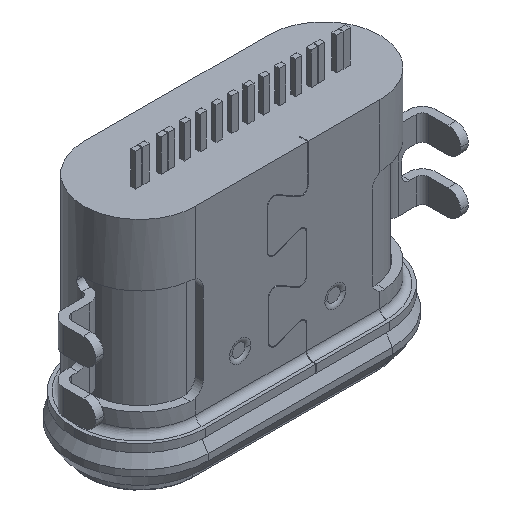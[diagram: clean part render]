
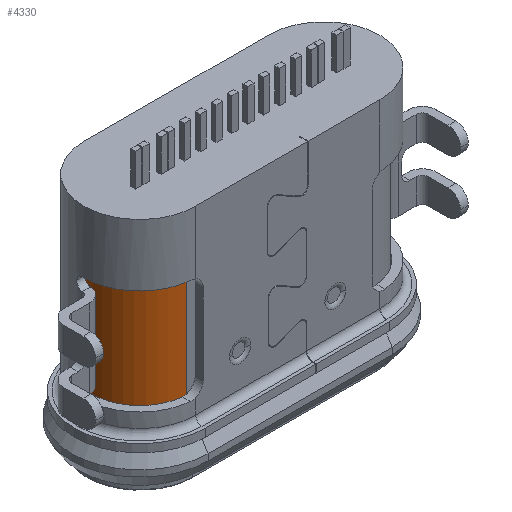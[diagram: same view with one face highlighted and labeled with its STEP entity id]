
A CAD part, isometric view. The second image highlights one B-rep face of the part: STEP entity #4330.
In plain terms, the highlighted cylindrical face has radius 1.48 mm (diameter 2.96 mm), a partial arc.
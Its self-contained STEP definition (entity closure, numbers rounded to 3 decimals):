
#1114 = EDGE_CURVE ( 'NONE', #4455, #7992, #5754, .T. ) ;
#1627 = AXIS2_PLACEMENT_3D ( 'NONE', #1766, #13767, #6457 ) ;
#1766 = CARTESIAN_POINT ( 'NONE',  ( -3.067, 0.666, 1.38 ) ) ;
#1993 = DIRECTION ( 'NONE',  ( 0., 0., -1. ) ) ;
#2386 = DIRECTION ( 'NONE',  ( 0., -1., 0. ) ) ;
#2474 = CARTESIAN_POINT ( 'NONE',  ( -3.067, 0.666, 6.48 ) ) ;
#2708 = CARTESIAN_POINT ( 'NONE',  ( -3.067, 2.146, 1.38 ) ) ;
#2921 = VECTOR ( 'NONE', #7766, 1000. ) ;
#3192 = CIRCLE ( 'NONE', #13912, 1.48 ) ;
#3530 = CYLINDRICAL_SURFACE ( 'NONE', #9230, 1.48 ) ;
#3755 = LINE ( 'NONE', #9493, #2921 ) ;
#4330 = ADVANCED_FACE ( 'NONE', ( #16474 ), #3530, .T. ) ;
#4351 = VERTEX_POINT ( 'NONE', #15328 ) ;
#4455 = VERTEX_POINT ( 'NONE', #18504 ) ;
#4692 = CIRCLE ( 'NONE', #1627, 1.48 ) ;
#5754 = LINE ( 'NONE', #13348, #8269 ) ;
#5974 = EDGE_CURVE ( 'NONE', #7992, #7640, #4692, .T. ) ;
#6457 = DIRECTION ( 'NONE',  ( 0., -1., 0. ) ) ;
#7067 = CARTESIAN_POINT ( 'NONE',  ( -3.067, -0.814, 1.38 ) ) ;
#7640 = VERTEX_POINT ( 'NONE', #2708 ) ;
#7766 = DIRECTION ( 'NONE',  ( 0., 0., 1. ) ) ;
#7992 = VERTEX_POINT ( 'NONE', #7067 ) ;
#8269 = VECTOR ( 'NONE', #14615, 1000. ) ;
#9230 = AXIS2_PLACEMENT_3D ( 'NONE', #17918, #1993, #9367 ) ;
#9367 = DIRECTION ( 'NONE',  ( 1., 0., 0. ) ) ;
#9493 = CARTESIAN_POINT ( 'NONE',  ( -3.067, 2.146, 1.38 ) ) ;
#12275 = ORIENTED_EDGE ( 'NONE', *, *, #14068, .T. ) ;
#13348 = CARTESIAN_POINT ( 'NONE',  ( -3.067, -0.814, 6.48 ) ) ;
#13767 = DIRECTION ( 'NONE',  ( 0., 0., -1. ) ) ;
#13912 = AXIS2_PLACEMENT_3D ( 'NONE', #2474, #15528, #2386 ) ;
#14068 = EDGE_CURVE ( 'NONE', #4455, #4351, #3192, .T. ) ;
#14615 = DIRECTION ( 'NONE',  ( 0., 0., -1. ) ) ;
#15328 = CARTESIAN_POINT ( 'NONE',  ( -3.067, 2.146, 6.48 ) ) ;
#15528 = DIRECTION ( 'NONE',  ( 0., 0., -1. ) ) ;
#16418 = ORIENTED_EDGE ( 'NONE', *, *, #1114, .F. ) ;
#16474 = FACE_OUTER_BOUND ( 'NONE', #19022, .T. ) ;
#16554 = EDGE_CURVE ( 'NONE', #7640, #4351, #3755, .T. ) ;
#17394 = ORIENTED_EDGE ( 'NONE', *, *, #5974, .F. ) ;
#17918 = CARTESIAN_POINT ( 'NONE',  ( -3.067, 0.666, 6.48 ) ) ;
#18232 = ORIENTED_EDGE ( 'NONE', *, *, #16554, .F. ) ;
#18504 = CARTESIAN_POINT ( 'NONE',  ( -3.067, -0.814, 6.48 ) ) ;
#19022 = EDGE_LOOP ( 'NONE', ( #16418, #12275, #18232, #17394 ) ) ;
